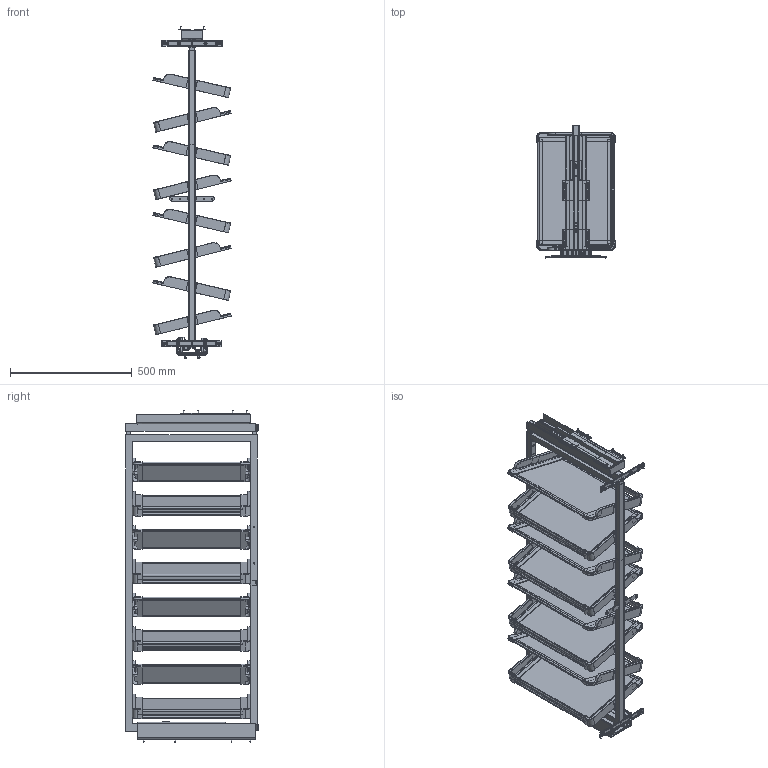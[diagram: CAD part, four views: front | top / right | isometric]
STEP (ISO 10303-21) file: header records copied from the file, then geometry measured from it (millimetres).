
FILE_DESCRIPTION(/* description */ ('STEP AP242 Edition 2','CAx-IF Rec.Pracs.---Representation and Presentation of Product Manufacturing Information (PMI)---4.0---2014-10-13','CAx-IF Rec.Pracs.---3D Tessellated Geometry---0.4---2014-09-14','2;1','CAx-IF Rec.Pracs.---User Defined Attributes---1.5---2016-08-15'),/* implementation_level */ '2;1');
FILE_NAME(/* name */ '6a0474bfcfd309d40198ae56',/* time_stamp */ '2026-05-13T12:55:28Z',/* author */ (''),/* organization */ (''),/* preprocessor_version */ 'ST-DEVELOPER v20',/* originating_system */ 'ONSHAPE BY PTC INC, 1.214',/* authorisation */ ' ');
FILE_SCHEMA (('AP242_MANAGED_MODEL_BASED_3D_ENGINEERING_MIM_LF { 1 0 10303 442 3 1 4 }'));
Length unit declared in the file: millimetre
Products named in the file (47): 500 assembly 8; kolko; PZ Raised countersunk head screw M4x0.70 x 4; Part 8; obudowa posrednia; plastik; PH Countersunk flat head screw M4x0.7 x 16; obudowa wewnetrzna; plasticzek; rama; Part 1; mechanizm wewnetrzny; Part 2; Part 4; obudowa dolna; gorna rama; mechanizm; PZ Raised countersunk head screw M2x0.40 x 4; Part 3; polka 500 assembly <8>; polka 500 assembly <3>; Part 5; Part 7; polka 500 assembly <6>; polka 500 assembly <1>; kolko1; Part 9; polka 500 assembly <2>; polka 500 assembly <5>; polka 500 assembly <4>; PH Countersunk flat head screw M4x0.7 x 6; polka 500 assembly <7>; Part 6
Assembly tree (136 placements, depth 3):
  500 assembly 8
    kolko  x4
    PZ Raised countersunk head screw M4x0.70 x 4  x4
    Part 8
    obudowa posrednia
    plastik
    PH Countersunk flat head screw M4x0.7 x 16  x16
    obudowa wewnetrzna
    plasticzek  x2
    rama
    Part 1  x2
    mechanizm wewnetrzny
    Part 2
    Part 4  x2
    obudowa dolna
    kolko  x4
    gorna rama
    mechanizm
    PZ Raised countersunk head screw M2x0.40 x 4  x4
    Part 3  x3
    Part 2  x2
    Part 1
    polka 500 assembly <8>
      Part 1
      Part 1  x2
      Part 4
      Part 1
      Part 3
      Part 2
      Part 2
    Part 3
    polka 500 assembly <3>
      Part 2
      Part 2
      Part 4
      Part 1
      Part 3
      Part 1
      Part 1  x2
    Part 5
    Part 7
    Part 4
    polka 500 assembly <6>
      Part 2
      Part 1  x2
      Part 2
      Part 1
      Part 4
      Part 3
      Part 1
    polka 500 assembly <1>
      Part 1
      Part 2
      Part 2
      Part 3
      Part 4
      Part 1  x2
      Part 1
    kolko1
    Part 9
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Bounding box: 323.66 x 544 x 1366.15 mm (x, y, z)
Volume: 11472302.8 mm3; surface area: 6605280.6 mm2
Topology: 128 solids, 128 shells, 3711 faces, 9325 edges, 6023 vertices
Faces by surface type: plane 2480, cylinder 915, cone 145, torus 137, bspline 26, sphere 8
Full cylindrical faces by diameter (mm): 2 x14, 2.5 x1, 3.7 x7, 3.8 x4, 4 x39, 4.35 x2, 4.4 x7, 5 x12, 6 x131, 7 x28, 7.9 x2, 8 x4, 8.4 x21, 9 x2, 9.9 x4, 10 x1, 11 x2, 12 x10, 12.5 x8, 13 x4, 14 x8, 16 x7, 20 x8, 21 x2, 28 x8, 29 x2
Entity records: 40469 total; most frequent: CARTESIAN_POINT 7276, DIRECTION 6684, ORIENTED_EDGE 5992, EDGE_CURVE 2996, AXIS2_PLACEMENT_3D 2338, VERTEX_POINT 2080, LINE 2008, VECTOR 2008
